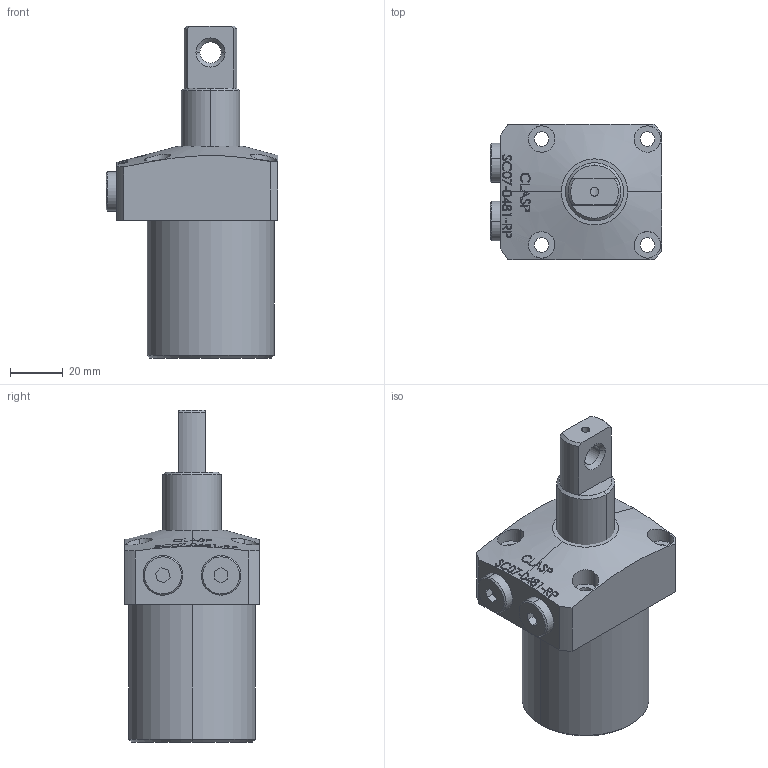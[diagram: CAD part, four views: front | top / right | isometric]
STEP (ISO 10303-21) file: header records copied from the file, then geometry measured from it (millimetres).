
FILE_DESCRIPTION (( 'STEP AP203' ), '1' );
FILE_NAME ('SC07-0481-RP.STEP', '2022-07-08T16:53:21', ( '' ), ( '' ), 'SwSTEP 2.0', 'SolidWorks 2017', '' );
FILE_SCHEMA (( 'CONFIG_CONTROL_DESIGN' ));
Length unit declared in the file: millimetre
Products named in the file (4): SC-07-0481-RP BODY; SC-07-0481-RP-Piston; SC-07-0481-RP-05 plug; SC07-0481-RP
Assembly tree (4 placements, depth 2):
  SC07-0481-RP
    SC-07-0481-RP BODY
    SC-07-0481-RP-Piston
    SC-07-0481-RP-05 plug  x2
Bounding box: 65 x 51 x 125.5 mm (x, y, z)
Volume: 190938 mm3; surface area: 29647.2 mm2
Topology: 4 solids, 4 shells, 328 faces, 820 edges, 540 vertices
Faces by surface type: plane 148, bspline 100, cylinder 50, cone 30
Entity records: 15468 total; most frequent: CARTESIAN_POINT 8294, ORIENTED_EDGE 1576, DIRECTION 1019, EDGE_CURVE 788, VERTEX_POINT 520, VECTOR 371, LINE 371, EDGE_LOOP 364
